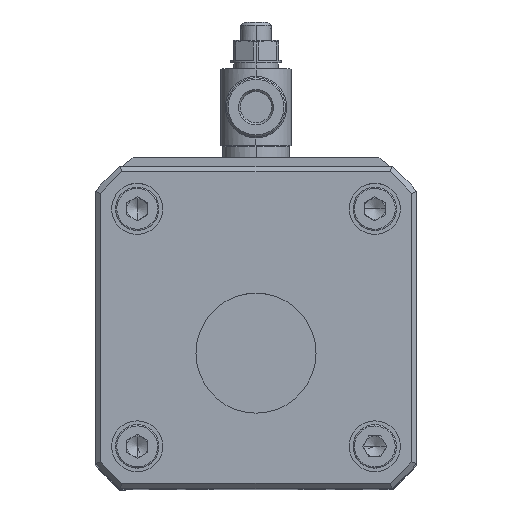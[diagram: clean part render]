
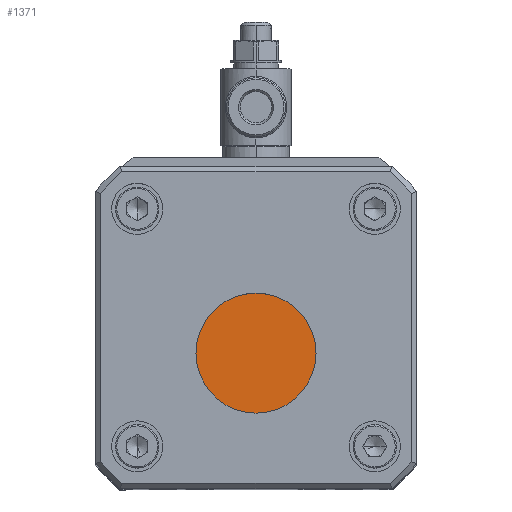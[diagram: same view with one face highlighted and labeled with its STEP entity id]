
A CAD part, top view. The second image highlights one B-rep face of the part: STEP entity #1371.
In plain terms, the highlighted planar face has unit normal (0, 0, 1).
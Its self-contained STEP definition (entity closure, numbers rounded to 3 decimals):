
#480 = DIRECTION ( 'NONE',  ( 1., 0., 0. ) ) ;
#1099 = EDGE_CURVE ( 'NONE', #3197, #15586, #14172, .T. ) ;
#1371 = ADVANCED_FACE ( 'NONE', ( #15762 ), #16688, .T. ) ;
#1410 = ORIENTED_EDGE ( 'NONE', *, *, #11759, .T. ) ;
#1887 = ORIENTED_EDGE ( 'NONE', *, *, #1099, .T. ) ;
#2291 = CARTESIAN_POINT ( 'NONE',  ( -30.4, -212.2, 90. ) ) ;
#3197 = VERTEX_POINT ( 'NONE', #11275 ) ;
#3867 = CARTESIAN_POINT ( 'NONE',  ( 0., -231., 90. ) ) ;
#3944 = AXIS2_PLACEMENT_3D ( 'NONE', #3867, #14196, #5184 ) ;
#5184 = DIRECTION ( 'NONE',  ( 1., 0., 0. ) ) ;
#5290 = DIRECTION ( 'NONE',  ( 1., 0., 0. ) ) ;
#9144 = CARTESIAN_POINT ( 'NONE',  ( 11.75, -231., 90. ) ) ;
#9307 = CIRCLE ( 'NONE', #16387, 11.75 ) ;
#11275 = CARTESIAN_POINT ( 'NONE',  ( -11.75, -231., 90. ) ) ;
#11759 = EDGE_CURVE ( 'NONE', #15586, #3197, #9307, .T. ) ;
#12605 = AXIS2_PLACEMENT_3D ( 'NONE', #2291, #12685, #5290 ) ;
#12685 = DIRECTION ( 'NONE',  ( 0., 0., 1. ) ) ;
#14172 = CIRCLE ( 'NONE', #3944, 11.75 ) ;
#14196 = DIRECTION ( 'NONE',  ( 0., 0., 1. ) ) ;
#14731 = EDGE_LOOP ( 'NONE', ( #1410, #1887 ) ) ;
#15586 = VERTEX_POINT ( 'NONE', #9144 ) ;
#15762 = FACE_OUTER_BOUND ( 'NONE', #14731, .T. ) ;
#16387 = AXIS2_PLACEMENT_3D ( 'NONE', #16603, #16392, #480 ) ;
#16392 = DIRECTION ( 'NONE',  ( 0., 0., 1. ) ) ;
#16603 = CARTESIAN_POINT ( 'NONE',  ( 0., -231., 90. ) ) ;
#16688 = PLANE ( 'NONE',  #12605 ) ;
